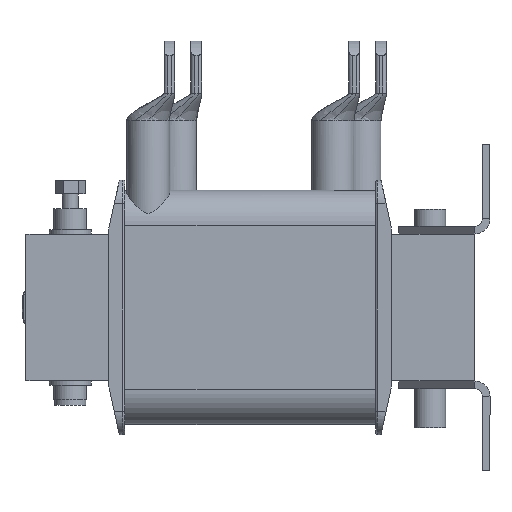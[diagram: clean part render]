
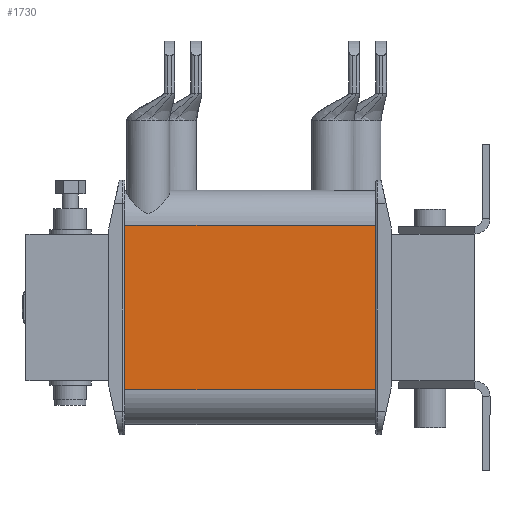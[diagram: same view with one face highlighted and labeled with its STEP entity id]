
A CAD part, left-side view. The second image highlights one B-rep face of the part: STEP entity #1730.
In plain terms, the highlighted planar face has unit normal (-1, 0, 0).
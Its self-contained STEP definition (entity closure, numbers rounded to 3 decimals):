
#197 = FACE_OUTER_BOUND ( 'NONE', #12172, .T. ) ;
#828 = CARTESIAN_POINT ( 'NONE',  ( -101.5, 140.25, 31.5 ) ) ;
#1215 = CARTESIAN_POINT ( 'NONE',  ( -101.5, 140.25, -31.5 ) ) ;
#1730 = ADVANCED_FACE ( 'NONE', ( #197 ), #6270, .F. ) ;
#2231 = DIRECTION ( 'NONE',  ( 0., -1., 0. ) ) ;
#2496 = LINE ( 'NONE', #7170, #3997 ) ;
#2748 = CARTESIAN_POINT ( 'NONE',  ( -101.5, 140.25, -31.5 ) ) ;
#3261 = VECTOR ( 'NONE', #12684, 1000. ) ;
#3602 = VERTEX_POINT ( 'NONE', #14833 ) ;
#3870 = ORIENTED_EDGE ( 'NONE', *, *, #8045, .F. ) ;
#3997 = VECTOR ( 'NONE', #8475, 1000. ) ;
#5137 = ORIENTED_EDGE ( 'NONE', *, *, #6902, .T. ) ;
#6225 = EDGE_CURVE ( 'NONE', #8704, #3602, #7924, .T. ) ;
#6270 = PLANE ( 'NONE',  #6603 ) ;
#6603 = AXIS2_PLACEMENT_3D ( 'NONE', #2748, #7427, #12110 ) ;
#6666 = CARTESIAN_POINT ( 'NONE',  ( -101.5, 140.25, -31.5 ) ) ;
#6902 = EDGE_CURVE ( 'NONE', #14337, #9737, #11733, .T. ) ;
#7170 = CARTESIAN_POINT ( 'NONE',  ( -101.5, 43.95, -31.5 ) ) ;
#7427 = DIRECTION ( 'NONE',  ( 1., 0., 0. ) ) ;
#7522 = ORIENTED_EDGE ( 'NONE', *, *, #6225, .F. ) ;
#7924 = LINE ( 'NONE', #12618, #11339 ) ;
#8045 = EDGE_CURVE ( 'NONE', #14337, #8704, #13682, .T. ) ;
#8475 = DIRECTION ( 'NONE',  ( 0., 0., 1. ) ) ;
#8704 = VERTEX_POINT ( 'NONE', #828 ) ;
#9161 = EDGE_CURVE ( 'NONE', #9737, #3602, #2496, .T. ) ;
#9737 = VERTEX_POINT ( 'NONE', #10793 ) ;
#10692 = ORIENTED_EDGE ( 'NONE', *, *, #9161, .T. ) ;
#10793 = CARTESIAN_POINT ( 'NONE',  ( -101.5, 43.95, -31.5 ) ) ;
#11339 = VECTOR ( 'NONE', #12391, 1000. ) ;
#11449 = CARTESIAN_POINT ( 'NONE',  ( -101.5, 140.25, -31.5 ) ) ;
#11733 = LINE ( 'NONE', #1215, #14761 ) ;
#12110 = DIRECTION ( 'NONE',  ( 0., 0., -1. ) ) ;
#12172 = EDGE_LOOP ( 'NONE', ( #10692, #7522, #3870, #5137 ) ) ;
#12391 = DIRECTION ( 'NONE',  ( 0., -1., 0. ) ) ;
#12618 = CARTESIAN_POINT ( 'NONE',  ( -101.5, 140.25, 31.5 ) ) ;
#12684 = DIRECTION ( 'NONE',  ( 0., 0., 1. ) ) ;
#13682 = LINE ( 'NONE', #11449, #3261 ) ;
#14337 = VERTEX_POINT ( 'NONE', #6666 ) ;
#14761 = VECTOR ( 'NONE', #2231, 1000. ) ;
#14833 = CARTESIAN_POINT ( 'NONE',  ( -101.5, 43.95, 31.5 ) ) ;
